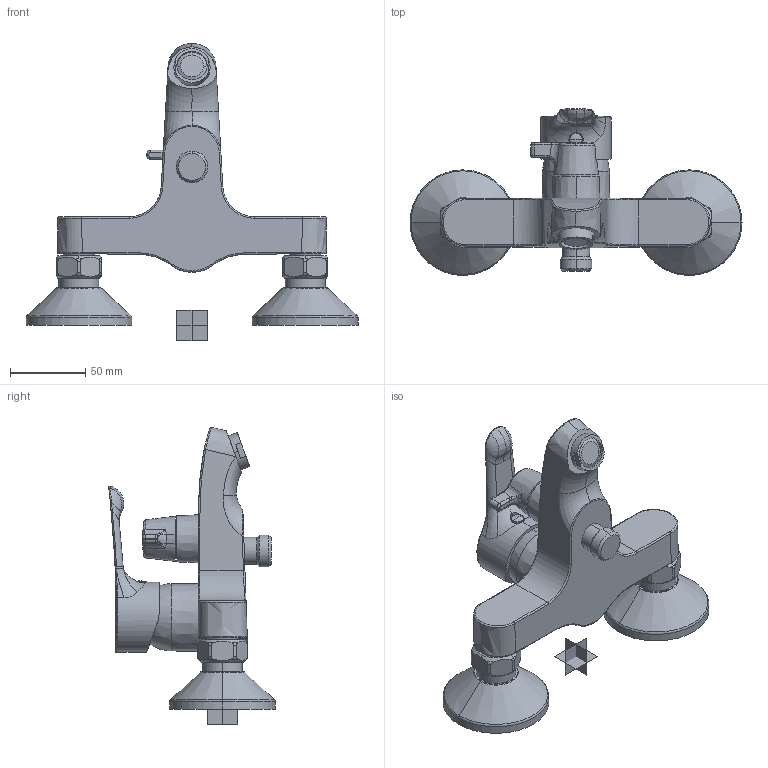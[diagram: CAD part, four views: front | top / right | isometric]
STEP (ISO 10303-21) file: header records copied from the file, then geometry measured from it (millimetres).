
FILE_DESCRIPTION((''),'2;1');
FILE_NAME('BC489_3DPL','2018-11-26T',('RibentsovV'),('AMERICAN STANDARD B&K'),'CREO PARAMETRIC BY PTC INC, 2016130','CREO PARAMETRIC BY PTC INC, 2016130','');
FILE_SCHEMA(('CONFIG_CONTROL_DESIGN'));
Length unit declared in the file: millimetre
Products named in the file (1): BC489_3DPL
Bounding box: 220 x 110.4 x 196.87 mm (x, y, z)
Volume: 547358.8 mm3; surface area: 76456.4 mm2
Topology: 1 solids, 4 shells, 505 faces, 1244 edges, 793 vertices
Faces by surface type: plane 160, bspline 152, cylinder 113, torus 49, cone 30, extrusion 1
Entity records: 27905 total; most frequent: CARTESIAN_POINT 16999, ORIENTED_EDGE 2472, DIRECTION 1890, EDGE_CURVE 1242, VERTEX_POINT 793, AXIS2_PLACEMENT_3D 726, EDGE_LOOP 556, FACE_OUTER_BOUND 505
